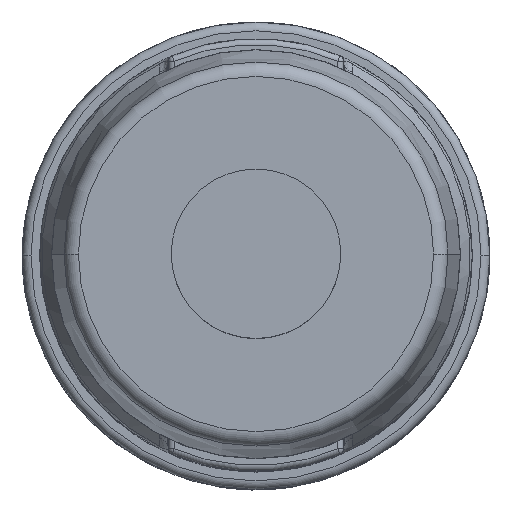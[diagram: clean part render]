
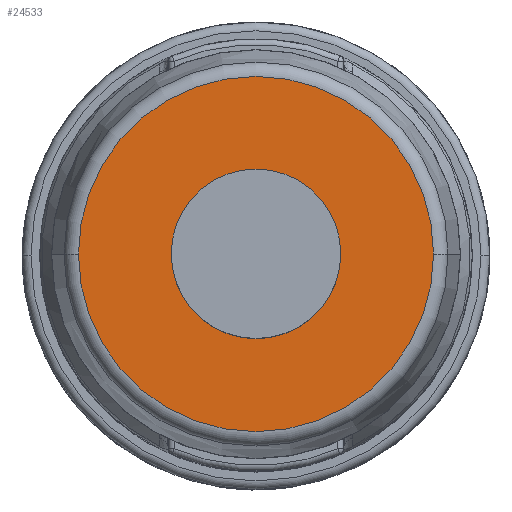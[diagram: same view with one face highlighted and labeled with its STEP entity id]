
A CAD part, top view. The second image highlights one B-rep face of the part: STEP entity #24533.
In plain terms, the highlighted planar face has unit normal (0, 0, 1).
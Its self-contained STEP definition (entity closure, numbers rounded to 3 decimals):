
#3124=CARTESIAN_POINT('',(49.975,39.951,62.13));
#3125=DIRECTION('',(0.,0.,1.));
#3126=DIRECTION('',(1.,0.,0.));
#3127=AXIS2_PLACEMENT_3D('',#3124,#3125,#3126);
#3129=CARTESIAN_POINT('',(49.975,39.951,62.13));
#3130=DIRECTION('',(0.,0.,1.));
#3131=DIRECTION('',(-1.,0.,0.));
#3132=AXIS2_PLACEMENT_3D('',#3129,#3130,#3131);
#3134=CARTESIAN_POINT('',(49.975,39.951,62.13));
#3135=DIRECTION('',(0.,0.,1.));
#3136=DIRECTION('',(0.,-1.,0.));
#3137=AXIS2_PLACEMENT_3D('',#3134,#3135,#3136);
#3139=CARTESIAN_POINT('',(49.975,39.951,62.13));
#3140=DIRECTION('',(0.,0.,1.));
#3141=DIRECTION('',(0.,1.,0.));
#3142=AXIS2_PLACEMENT_3D('',#3139,#3140,#3141);
#18800=CARTESIAN_POINT('',(56.051,39.951,62.13));
#18801=CARTESIAN_POINT('',(43.898,39.951,62.13));
#18802=VERTEX_POINT('',#18800);
#18803=VERTEX_POINT('',#18801);
#19601=CARTESIAN_POINT('',(49.975,37.051,62.13));
#19602=CARTESIAN_POINT('',(49.975,42.851,62.13));
#19603=VERTEX_POINT('',#19601);
#19604=VERTEX_POINT('',#19602);
#24517=CARTESIAN_POINT('',(49.975,39.951,62.13));
#24518=DIRECTION('',(0.,0.,-1.));
#24519=DIRECTION('',(-1.,0.,0.));
#24520=AXIS2_PLACEMENT_3D('',#24517,#24518,#24519);
#24521=PLANE('',#24520);
#24522=ORIENTED_EDGE('',*,*,#24507,.F.);
#24524=ORIENTED_EDGE('',*,*,#24523,.F.);
#24525=EDGE_LOOP('',(#24522,#24524));
#24526=FACE_OUTER_BOUND('',#24525,.F.);
#24528=ORIENTED_EDGE('',*,*,#24527,.T.);
#24530=ORIENTED_EDGE('',*,*,#24529,.T.);
#24531=EDGE_LOOP('',(#24528,#24530));
#24532=FACE_BOUND('',#24531,.F.);
#24533=ADVANCED_FACE('',(#24526,#24532),#24521,.F.);
#3128=CIRCLE('',#3127,6.076);
#3133=CIRCLE('',#3132,6.076);
#3138=CIRCLE('',#3137,2.9);
#3143=CIRCLE('',#3142,2.9);
#24507=EDGE_CURVE('',#18802,#18803,#3128,.T.);
#24523=EDGE_CURVE('',#18803,#18802,#3133,.T.);
#24527=EDGE_CURVE('',#19603,#19604,#3138,.T.);
#24529=EDGE_CURVE('',#19604,#19603,#3143,.T.);
